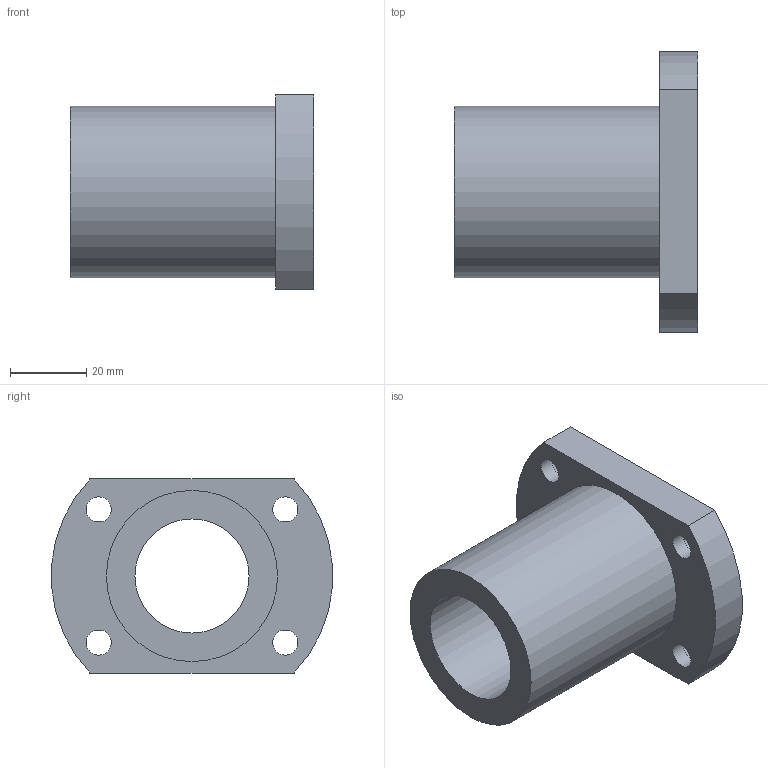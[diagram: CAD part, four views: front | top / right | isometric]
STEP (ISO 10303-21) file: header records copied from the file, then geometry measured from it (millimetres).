
FILE_DESCRIPTION(/* description */ ('Unknown'),/* implementation_level */ '2;1');
FILE_NAME(/* name */ 'LMH30UU',/* time_stamp */ '2025-02-03T14:12:55+08:00',/* author */ ('Unknown'),/* organization */ ('Unknown'),/* preprocessor_version */ 'ST-DEVELOPER v18.102',/* originating_system */ 'Solid Edge',/* authorisation */ 'Unknown');
FILE_SCHEMA (('AUTOMOTIVE_DESIGN {1 0 10303 214 3 1 1}'));
Length unit declared in the file: millimetre
Products named in the file (1): LMH30UU
Bounding box: 64 x 73.74 x 51 mm (x, y, z)
Volume: 72283.6 mm3; surface area: 22241.3 mm2
Topology: 1 solids, 1 shells, 21 faces, 42 edges, 28 vertices
Faces by surface type: cylinder 12, plane 9
Full cylindrical faces by diameter (mm): 6.6 x4, 11 x4, 30 x1, 45 x1
Entity records: 560 total; most frequent: DIRECTION 100, CARTESIAN_POINT 82, ORIENTED_EDGE 64, EDGE_LOOP 46, FACE_BOUND 46, AXIS2_PLACEMENT_3D 46, EDGE_CURVE 32, VERTEX_POINT 28
